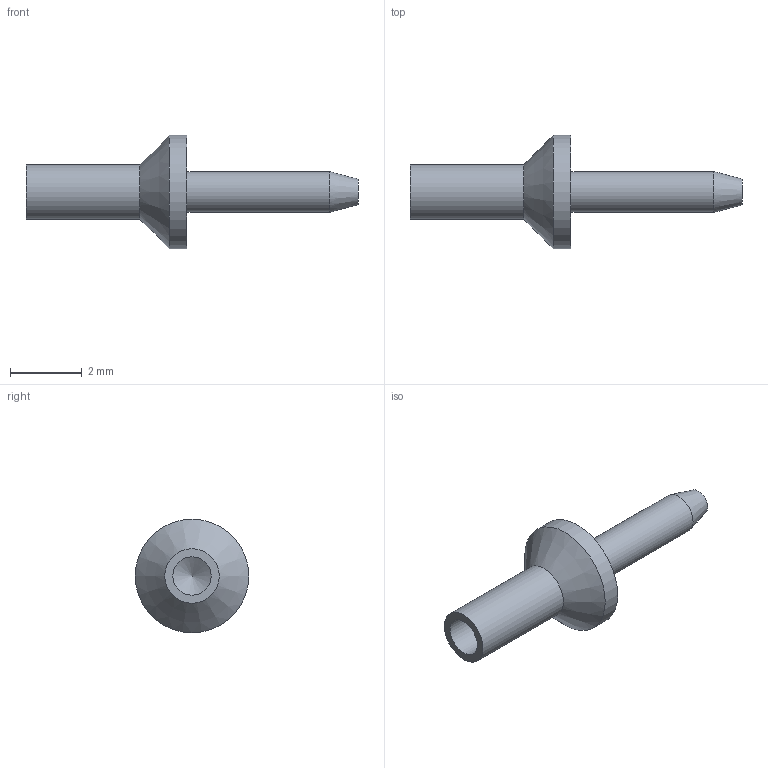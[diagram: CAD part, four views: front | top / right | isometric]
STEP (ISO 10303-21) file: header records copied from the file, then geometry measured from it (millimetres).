
FILE_DESCRIPTION(/* description */ (''),/* implementation_level */ '2;1');
FILE_NAME(/* name */ 'Z:\STEP folder\460322103.ipt.stp',/* time_stamp */ '2016-12-21T13:05:47+00:00',/* author */ ('Paul Karlsons'),/* organization */ (''),/* preprocessor_version */ 'ST-DEVELOPER v15.2',/* originating_system */ 'Autodesk Inventor 2014',/* authorisation */ '');
FILE_SCHEMA (('AUTOMOTIVE_DESIGN { 1 0 10303 214 3 1 1 }'));
Length unit declared in the file: millimetre
Products named in the file (1): 460322103
Bounding box: 9.27 x 3.17 x 3.17 mm (x, y, z)
Volume: 17.1 mm3; surface area: 58.2 mm2
Topology: 1 solids, 1 shells, 10 faces, 17 edges, 10 vertices
Faces by surface type: cylinder 4, cone 3, plane 3
Full cylindrical faces by diameter (mm): 1.07 x1, 1.143 x1, 1.524 x1, 3.175 x1
Entity records: 215 total; most frequent: DIRECTION 40, CARTESIAN_POINT 29, AXIS2_PLACEMENT_3D 20, EDGE_LOOP 18, ORIENTED_EDGE 18, FACE_BOUND 10, ADVANCED_FACE 10, CIRCLE 9
